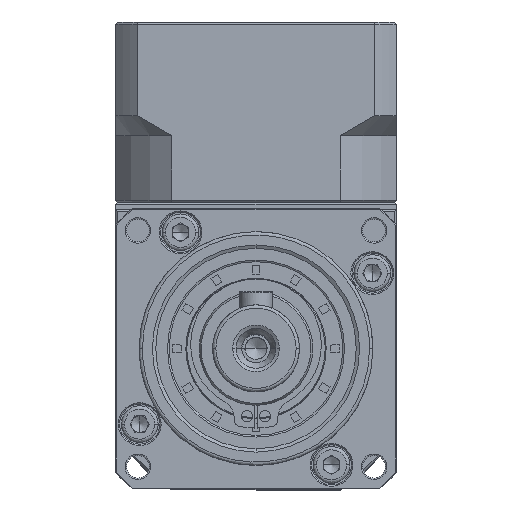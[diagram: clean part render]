
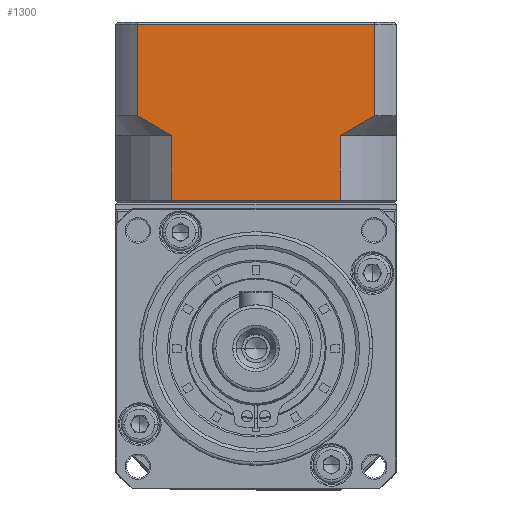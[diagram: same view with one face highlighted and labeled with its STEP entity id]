
A CAD part, top view. The second image highlights one B-rep face of the part: STEP entity #1300.
In plain terms, the highlighted planar face has unit normal (0, 0, 1).
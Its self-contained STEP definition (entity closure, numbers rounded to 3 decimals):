
#1300 = ADVANCED_FACE ( 'NONE', ( #55674 ), #97568, .T. ) ;
#3793 = DIRECTION ( 'NONE',  ( -1., 0., 0. ) ) ;
#4539 = VECTOR ( 'NONE', #109747, 1000. ) ;
#4901 = CARTESIAN_POINT ( 'NONE',  ( 53.61, 52.728, 40.104 ) ) ;
#8563 = VERTEX_POINT ( 'NONE', #18159 ) ;
#9680 = CARTESIAN_POINT ( 'NONE',  ( 61.99, 42.728, 40.104 ) ) ;
#12243 = VERTEX_POINT ( 'NONE', #22892 ) ;
#16875 = DIRECTION ( 'NONE',  ( 0., -1., 0. ) ) ;
#18144 = VERTEX_POINT ( 'NONE', #65000 ) ;
#18159 = CARTESIAN_POINT ( 'NONE',  ( 23.235, 69.428, 40.104 ) ) ;
#20423 = LINE ( 'NONE', #115822, #95525 ) ;
#22892 = CARTESIAN_POINT ( 'NONE',  ( 28.371, 43.028, 40.104 ) ) ;
#27978 = CARTESIAN_POINT ( 'NONE',  ( 28.371, 52.728, 40.104 ) ) ;
#28406 = LINE ( 'NONE', #121360, #102076 ) ;
#33115 = LINE ( 'NONE', #40958, #103682 ) ;
#35838 = AXIS2_PLACEMENT_3D ( 'NONE', #9680, #106991, #88159 ) ;
#35879 = CARTESIAN_POINT ( 'NONE',  ( 58.745, 55.728, 40.104 ) ) ;
#37067 = B_SPLINE_CURVE_WITH_KNOTS ( 'NONE', 3,
 ( #124115, #94942, #86285, #95362 ),
 .UNSPECIFIED., .F., .F.,
 ( 4, 4 ),
 ( 0., 0.006 ),
 .UNSPECIFIED. ) ;
#40958 = CARTESIAN_POINT ( 'NONE',  ( 28.371, 42.728, 40.104 ) ) ;
#42792 = ORIENTED_EDGE ( 'NONE', *, *, #124564, .T. ) ;
#44024 = CARTESIAN_POINT ( 'NONE',  ( 23.235, 42.728, 40.104 ) ) ;
#45643 = CARTESIAN_POINT ( 'NONE',  ( 57.078, 54.652, 40.104 ) ) ;
#54157 = LINE ( 'NONE', #44024, #113870 ) ;
#55674 = FACE_OUTER_BOUND ( 'NONE', #61162, .T. ) ;
#60294 = DIRECTION ( 'NONE',  ( 0., -1., 0. ) ) ;
#61162 = EDGE_LOOP ( 'NONE', ( #83202, #121041, #61800, #110586, #110052, #42792, #68909, #119488 ) ) ;
#61800 = ORIENTED_EDGE ( 'NONE', *, *, #76812, .T. ) ;
#61946 = CARTESIAN_POINT ( 'NONE',  ( 23.235, 55.728, 40.104 ) ) ;
#63355 = CARTESIAN_POINT ( 'NONE',  ( 53.61, 43.028, 40.104 ) ) ;
#63647 = CARTESIAN_POINT ( 'NONE',  ( 53.61, 52.728, 40.104 ) ) ;
#65000 = CARTESIAN_POINT ( 'NONE',  ( 58.745, 55.728, 40.104 ) ) ;
#65476 = DIRECTION ( 'NONE',  ( 0., 1., 0. ) ) ;
#67430 = EDGE_CURVE ( 'NONE', #97514, #104660, #20423, .T. ) ;
#68909 = ORIENTED_EDGE ( 'NONE', *, *, #76717, .T. ) ;
#70012 = VECTOR ( 'NONE', #65476, 1000. ) ;
#70037 = B_SPLINE_CURVE_WITH_KNOTS ( 'NONE', 3,
 ( #4901, #122905, #45643, #35879 ),
 .UNSPECIFIED., .F., .F.,
 ( 4, 4 ),
 ( 0., 0.006 ),
 .UNSPECIFIED. ) ;
#72379 = DIRECTION ( 'NONE',  ( 0., -1., 0. ) ) ;
#72490 = CARTESIAN_POINT ( 'NONE',  ( 61.99, 69.428, 40.104 ) ) ;
#76692 = LINE ( 'NONE', #72490, #4539 ) ;
#76717 = EDGE_CURVE ( 'NONE', #18144, #123520, #126800, .T. ) ;
#76812 = EDGE_CURVE ( 'NONE', #80490, #12243, #33115, .T. ) ;
#80016 = VERTEX_POINT ( 'NONE', #61946 ) ;
#80490 = VERTEX_POINT ( 'NONE', #27978 ) ;
#83202 = ORIENTED_EDGE ( 'NONE', *, *, #109250, .T. ) ;
#86285 = CARTESIAN_POINT ( 'NONE',  ( 26.606, 53.637, 40.104 ) ) ;
#88159 = DIRECTION ( 'NONE',  ( -1., 0., 0. ) ) ;
#88522 = CARTESIAN_POINT ( 'NONE',  ( 58.745, 42.728, 40.104 ) ) ;
#90623 = EDGE_CURVE ( 'NONE', #104660, #12243, #28406, .T. ) ;
#94942 = CARTESIAN_POINT ( 'NONE',  ( 24.902, 54.652, 40.104 ) ) ;
#95362 = CARTESIAN_POINT ( 'NONE',  ( 28.371, 52.728, 40.104 ) ) ;
#95525 = VECTOR ( 'NONE', #16875, 1000. ) ;
#97514 = VERTEX_POINT ( 'NONE', #63647 ) ;
#97568 = PLANE ( 'NONE',  #35838 ) ;
#98945 = EDGE_CURVE ( 'NONE', #123520, #8563, #76692, .T. ) ;
#102076 = VECTOR ( 'NONE', #3793, 1000. ) ;
#103682 = VECTOR ( 'NONE', #60294, 1000. ) ;
#104660 = VERTEX_POINT ( 'NONE', #63355 ) ;
#105975 = CARTESIAN_POINT ( 'NONE',  ( 58.745, 69.428, 40.104 ) ) ;
#106991 = DIRECTION ( 'NONE',  ( 0., 0., 1. ) ) ;
#109250 = EDGE_CURVE ( 'NONE', #8563, #80016, #54157, .T. ) ;
#109747 = DIRECTION ( 'NONE',  ( -1., 0., 0. ) ) ;
#110052 = ORIENTED_EDGE ( 'NONE', *, *, #67430, .F. ) ;
#110586 = ORIENTED_EDGE ( 'NONE', *, *, #90623, .F. ) ;
#113870 = VECTOR ( 'NONE', #72379, 1000. ) ;
#115822 = CARTESIAN_POINT ( 'NONE',  ( 53.61, 22.564, 40.104 ) ) ;
#116364 = EDGE_CURVE ( 'NONE', #80016, #80490, #37067, .T. ) ;
#119488 = ORIENTED_EDGE ( 'NONE', *, *, #98945, .T. ) ;
#121041 = ORIENTED_EDGE ( 'NONE', *, *, #116364, .T. ) ;
#121360 = CARTESIAN_POINT ( 'NONE',  ( 61.99, 43.028, 40.104 ) ) ;
#122905 = CARTESIAN_POINT ( 'NONE',  ( 55.375, 53.637, 40.104 ) ) ;
#123520 = VERTEX_POINT ( 'NONE', #105975 ) ;
#124115 = CARTESIAN_POINT ( 'NONE',  ( 23.235, 55.728, 40.104 ) ) ;
#124564 = EDGE_CURVE ( 'NONE', #97514, #18144, #70037, .T. ) ;
#126800 = LINE ( 'NONE', #88522, #70012 ) ;
